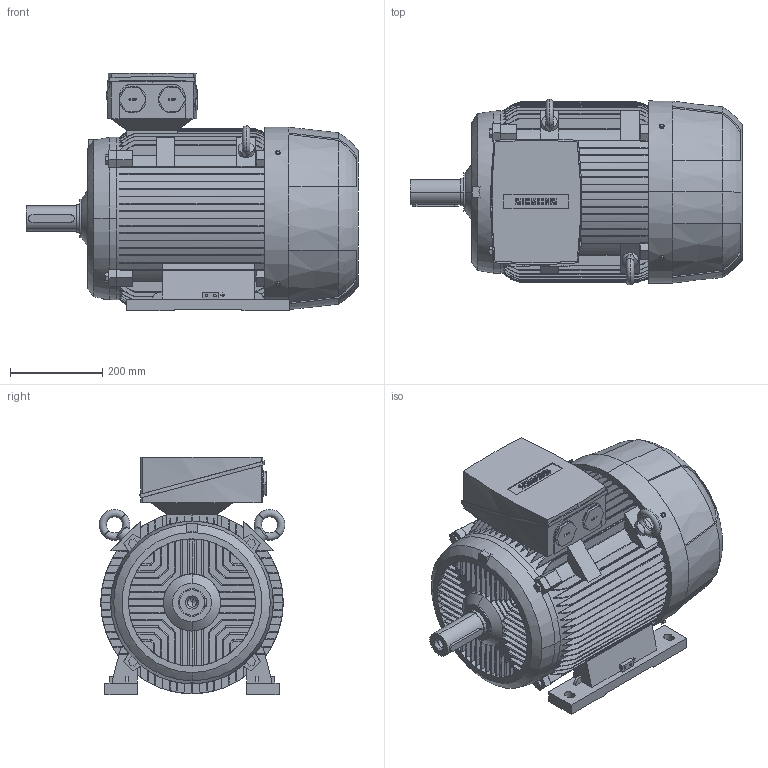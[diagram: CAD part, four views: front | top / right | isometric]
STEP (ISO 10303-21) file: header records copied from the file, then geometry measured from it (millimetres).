
FILE_DESCRIPTION(('STEP AP214'),'1');
FILE_NAME('cctmp_E071642F-1316-4230-8629-22119792DB87_2020_5_29_16_43_2_827..stp','2020-05-29T14:43:04',('SIEMENS A&D'),('CADClick - www.CADClick.com'),'Spatial InterOp 3D',' ','unknown authorization');
FILE_SCHEMA(('AUTOMOTIVE_DESIGN'));
Length unit declared in the file: millimetre
Products named in the file (1): 1
Bounding box: 721 x 403.47 x 515 mm (x, y, z)
Volume: 68731319.1 mm3; surface area: 2042819.6 mm2
Topology: 1 solids, 1 shells, 1383 faces, 3916 edges, 2578 vertices
Faces by surface type: plane 841, cylinder 322, torus 184, cone 36
Entity records: 68364 total; most frequent: CARTESIAN_POINT 22429, ORIENTED_EDGE 7828, DIRECTION 6637, EDGE_CURVE 3914, VERTEX_POINT 2578, AXIS2_PLACEMENT_3D 2242, LINE 2153, VECTOR 2153
